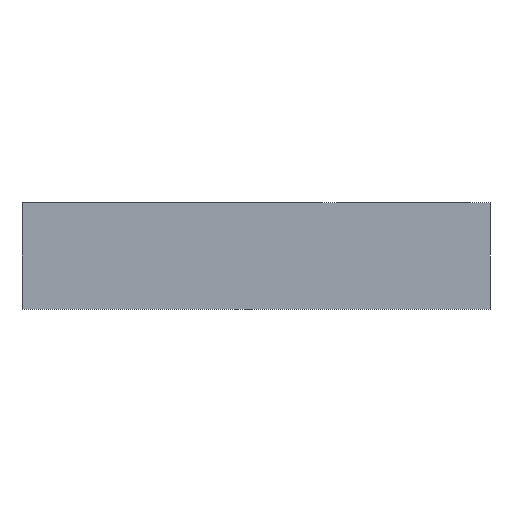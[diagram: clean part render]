
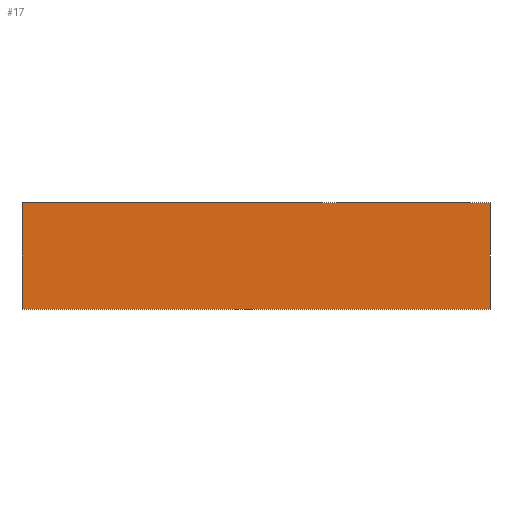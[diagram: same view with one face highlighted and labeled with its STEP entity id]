
A CAD part, left-side view. The second image highlights one B-rep face of the part: STEP entity #17.
In plain terms, the highlighted free-form (B-spline) face has degree [1, 1] with [2, 2] control points.
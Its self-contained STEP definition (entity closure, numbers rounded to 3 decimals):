
#17 = ADVANCED_FACE('',(#18),#31,.F.);
#18 = FACE_BOUND('',#19,.F.);
#19 = EDGE_LOOP('',(#20,#52,#77,#102));
#20 = ORIENTED_EDGE('',*,*,#21,.F.);
#21 = EDGE_CURVE('',#22,#24,#26,.T.);
#22 = VERTEX_POINT('',#23);
#23 = CARTESIAN_POINT('',(-14.,-14.,0.));
#24 = VERTEX_POINT('',#25);
#25 = CARTESIAN_POINT('',(-14.,-14.,6.4));
#26 = SURFACE_CURVE('',#27,(#30,#41),.PCURVE_S1.);
#27 = B_SPLINE_CURVE_WITH_KNOTS('',1,(#28,#29),.UNSPECIFIED.,.F.,.F.,(2,
    2),(0.,6.4),.PIECEWISE_BEZIER_KNOTS.);
#28 = CARTESIAN_POINT('',(-14.,-14.,0.));
#29 = CARTESIAN_POINT('',(-14.,-14.,6.4));
#30 = PCURVE('',#31,#36);
#31 = B_SPLINE_SURFACE_WITH_KNOTS('',1,1,(
    (#32,#33)
    ,(#34,#35
  )),.UNSPECIFIED.,.F.,.F.,.F.,(2,2),(2,2),(0.,6.4),(-28.,0.),
  .PIECEWISE_BEZIER_KNOTS.);
#32 = CARTESIAN_POINT('',(-14.,14.,0.));
#33 = CARTESIAN_POINT('',(-14.,-14.,0.));
#34 = CARTESIAN_POINT('',(-14.,14.,6.4));
#35 = CARTESIAN_POINT('',(-14.,-14.,6.4));
#36 = DEFINITIONAL_REPRESENTATION('',(#37),#40);
#37 = B_SPLINE_CURVE_WITH_KNOTS('',1,(#38,#39),.UNSPECIFIED.,.F.,.F.,(2,
    2),(0.,6.4),.PIECEWISE_BEZIER_KNOTS.);
#38 = CARTESIAN_POINT('',(0.,0.));
#39 = CARTESIAN_POINT('',(6.4,0.));
#40 = ( GEOMETRIC_REPRESENTATION_CONTEXT(2) 
PARAMETRIC_REPRESENTATION_CONTEXT() REPRESENTATION_CONTEXT('2D SPACE',''
  ) );
#41 = PCURVE('',#42,#47);
#42 = B_SPLINE_SURFACE_WITH_KNOTS('',1,1,(
    (#43,#44)
    ,(#45,#46)),.UNSPECIFIED.,.F.,.F.,.F.,(2,2),(2,2),(0.,6.4),(0.,28.),
  .PIECEWISE_BEZIER_KNOTS.);
#43 = CARTESIAN_POINT('',(-14.,-14.,0.));
#44 = CARTESIAN_POINT('',(14.,-14.,0.));
#45 = CARTESIAN_POINT('',(-14.,-14.,6.4));
#46 = CARTESIAN_POINT('',(14.,-14.,6.4));
#47 = DEFINITIONAL_REPRESENTATION('',(#48),#51);
#48 = B_SPLINE_CURVE_WITH_KNOTS('',1,(#49,#50),.UNSPECIFIED.,.F.,.F.,(2,
    2),(0.,6.4),.PIECEWISE_BEZIER_KNOTS.);
#49 = CARTESIAN_POINT('',(0.,0.));
#50 = CARTESIAN_POINT('',(6.4,0.));
#51 = ( GEOMETRIC_REPRESENTATION_CONTEXT(2) 
PARAMETRIC_REPRESENTATION_CONTEXT() REPRESENTATION_CONTEXT('2D SPACE',''
  ) );
#52 = ORIENTED_EDGE('',*,*,#53,.T.);
#53 = EDGE_CURVE('',#22,#54,#56,.T.);
#54 = VERTEX_POINT('',#55);
#55 = CARTESIAN_POINT('',(-14.,14.,0.));
#56 = SURFACE_CURVE('',#57,(#60,#66),.PCURVE_S1.);
#57 = B_SPLINE_CURVE_WITH_KNOTS('',1,(#58,#59),.UNSPECIFIED.,.F.,.F.,(2,
    2),(0.,28.),.PIECEWISE_BEZIER_KNOTS.);
#58 = CARTESIAN_POINT('',(-14.,-14.,0.));
#59 = CARTESIAN_POINT('',(-14.,14.,0.));
#60 = PCURVE('',#31,#61);
#61 = DEFINITIONAL_REPRESENTATION('',(#62),#65);
#62 = B_SPLINE_CURVE_WITH_KNOTS('',1,(#63,#64),.UNSPECIFIED.,.F.,.F.,(2,
    2),(0.,28.),.PIECEWISE_BEZIER_KNOTS.);
#63 = CARTESIAN_POINT('',(0.,0.));
#64 = CARTESIAN_POINT('',(0.,-28.));
#65 = ( GEOMETRIC_REPRESENTATION_CONTEXT(2) 
PARAMETRIC_REPRESENTATION_CONTEXT() REPRESENTATION_CONTEXT('2D SPACE',''
  ) );
#66 = PCURVE('',#67,#72);
#67 = B_SPLINE_SURFACE_WITH_KNOTS('',1,1,(
    (#68,#69)
    ,(#70,#71)),.UNSPECIFIED.,.F.,.F.,.F.,(2,2),(2,2),(0.,28.),(0.,28.),
  .PIECEWISE_BEZIER_KNOTS.);
#68 = CARTESIAN_POINT('',(-14.,-14.,0.));
#69 = CARTESIAN_POINT('',(-14.,14.,0.));
#70 = CARTESIAN_POINT('',(14.,-14.,0.));
#71 = CARTESIAN_POINT('',(14.,14.,0.));
#72 = DEFINITIONAL_REPRESENTATION('',(#73),#76);
#73 = B_SPLINE_CURVE_WITH_KNOTS('',1,(#74,#75),.UNSPECIFIED.,.F.,.F.,(2,
    2),(0.,28.),.PIECEWISE_BEZIER_KNOTS.);
#74 = CARTESIAN_POINT('',(0.,0.));
#75 = CARTESIAN_POINT('',(0.,28.));
#76 = ( GEOMETRIC_REPRESENTATION_CONTEXT(2) 
PARAMETRIC_REPRESENTATION_CONTEXT() REPRESENTATION_CONTEXT('2D SPACE',''
  ) );
#77 = ORIENTED_EDGE('',*,*,#78,.T.);
#78 = EDGE_CURVE('',#54,#79,#81,.T.);
#79 = VERTEX_POINT('',#80);
#80 = CARTESIAN_POINT('',(-14.,14.,6.4));
#81 = SURFACE_CURVE('',#82,(#85,#91),.PCURVE_S1.);
#82 = B_SPLINE_CURVE_WITH_KNOTS('',1,(#83,#84),.UNSPECIFIED.,.F.,.F.,(2,
    2),(0.,6.4),.PIECEWISE_BEZIER_KNOTS.);
#83 = CARTESIAN_POINT('',(-14.,14.,0.));
#84 = CARTESIAN_POINT('',(-14.,14.,6.4));
#85 = PCURVE('',#31,#86);
#86 = DEFINITIONAL_REPRESENTATION('',(#87),#90);
#87 = B_SPLINE_CURVE_WITH_KNOTS('',1,(#88,#89),.UNSPECIFIED.,.F.,.F.,(2,
    2),(0.,6.4),.PIECEWISE_BEZIER_KNOTS.);
#88 = CARTESIAN_POINT('',(0.,-28.));
#89 = CARTESIAN_POINT('',(6.4,-28.));
#90 = ( GEOMETRIC_REPRESENTATION_CONTEXT(2) 
PARAMETRIC_REPRESENTATION_CONTEXT() REPRESENTATION_CONTEXT('2D SPACE',''
  ) );
#91 = PCURVE('',#92,#97);
#92 = B_SPLINE_SURFACE_WITH_KNOTS('',1,1,(
    (#93,#94)
    ,(#95,#96)),.UNSPECIFIED.,.F.,.F.,.F.,(2,2),(2,2),(0.,6.4),(0.,28.),
  .PIECEWISE_BEZIER_KNOTS.);
#93 = CARTESIAN_POINT('',(-14.,14.,0.));
#94 = CARTESIAN_POINT('',(14.,14.,0.));
#95 = CARTESIAN_POINT('',(-14.,14.,6.4));
#96 = CARTESIAN_POINT('',(14.,14.,6.4));
#97 = DEFINITIONAL_REPRESENTATION('',(#98),#101);
#98 = B_SPLINE_CURVE_WITH_KNOTS('',1,(#99,#100),.UNSPECIFIED.,.F.,.F.,(2
    ,2),(0.,6.4),.PIECEWISE_BEZIER_KNOTS.);
#99 = CARTESIAN_POINT('',(0.,0.));
#100 = CARTESIAN_POINT('',(6.4,0.));
#101 = ( GEOMETRIC_REPRESENTATION_CONTEXT(2) 
PARAMETRIC_REPRESENTATION_CONTEXT() REPRESENTATION_CONTEXT('2D SPACE',''
  ) );
#102 = ORIENTED_EDGE('',*,*,#103,.F.);
#103 = EDGE_CURVE('',#24,#79,#104,.T.);
#104 = SURFACE_CURVE('',#105,(#108,#114),.PCURVE_S1.);
#105 = B_SPLINE_CURVE_WITH_KNOTS('',1,(#106,#107),.UNSPECIFIED.,.F.,.F.,
  (2,2),(0.,28.),.PIECEWISE_BEZIER_KNOTS.);
#106 = CARTESIAN_POINT('',(-14.,-14.,6.4));
#107 = CARTESIAN_POINT('',(-14.,14.,6.4));
#108 = PCURVE('',#31,#109);
#109 = DEFINITIONAL_REPRESENTATION('',(#110),#113);
#110 = B_SPLINE_CURVE_WITH_KNOTS('',1,(#111,#112),.UNSPECIFIED.,.F.,.F.,
  (2,2),(0.,28.),.PIECEWISE_BEZIER_KNOTS.);
#111 = CARTESIAN_POINT('',(6.4,0.));
#112 = CARTESIAN_POINT('',(6.4,-28.));
#113 = ( GEOMETRIC_REPRESENTATION_CONTEXT(2) 
PARAMETRIC_REPRESENTATION_CONTEXT() REPRESENTATION_CONTEXT('2D SPACE',''
  ) );
#114 = PCURVE('',#115,#120);
#115 = B_SPLINE_SURFACE_WITH_KNOTS('',1,1,(
    (#116,#117)
    ,(#118,#119
    )),.UNSPECIFIED.,.F.,.F.,.F.,(2,2),(2,2),(0.,28.),(0.,28.),
  .PIECEWISE_BEZIER_KNOTS.);
#116 = CARTESIAN_POINT('',(-14.,-14.,6.4));
#117 = CARTESIAN_POINT('',(-14.,14.,6.4));
#118 = CARTESIAN_POINT('',(14.,-14.,6.4));
#119 = CARTESIAN_POINT('',(14.,14.,6.4));
#120 = DEFINITIONAL_REPRESENTATION('',(#121),#124);
#121 = B_SPLINE_CURVE_WITH_KNOTS('',1,(#122,#123),.UNSPECIFIED.,.F.,.F.,
  (2,2),(0.,28.),.PIECEWISE_BEZIER_KNOTS.);
#122 = CARTESIAN_POINT('',(0.,0.));
#123 = CARTESIAN_POINT('',(0.,28.));
#124 = ( GEOMETRIC_REPRESENTATION_CONTEXT(2) 
PARAMETRIC_REPRESENTATION_CONTEXT() REPRESENTATION_CONTEXT('2D SPACE',''
  ) );
